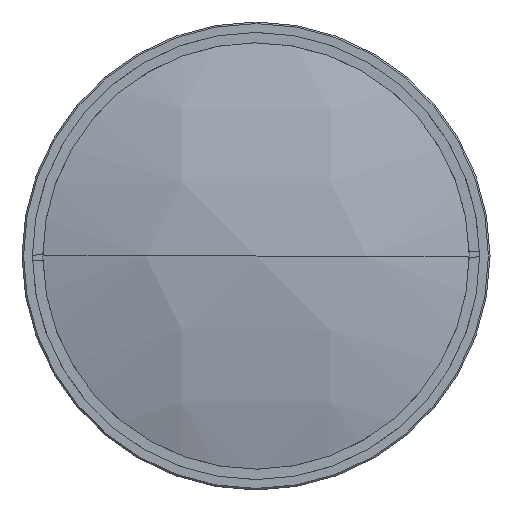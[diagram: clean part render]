
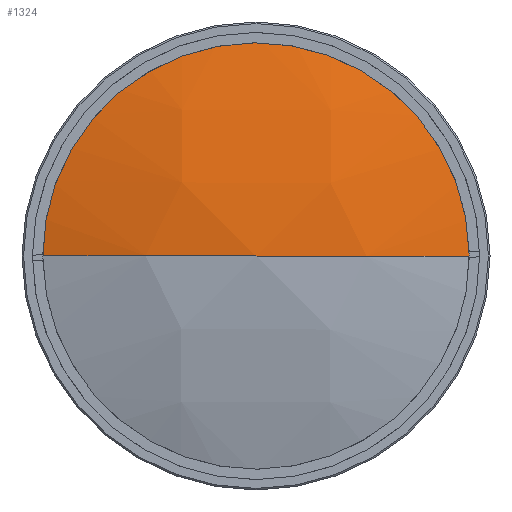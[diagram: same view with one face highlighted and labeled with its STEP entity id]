
A CAD part, left-side view. The second image highlights one B-rep face of the part: STEP entity #1324.
In plain terms, the highlighted free-form (B-spline) face has degree [3, 3] with [4, 4] control points.
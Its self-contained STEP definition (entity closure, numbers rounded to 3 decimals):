
#492 = CARTESIAN_POINT ( 'NONE',  ( 42.959, -14.642, 4.452 ) ) ;
#592 = CARTESIAN_POINT ( 'NONE',  ( 27.166, -42.487, 8.871 ) ) ;
#915 = ORIENTED_EDGE ( 'NONE', *, *, #10816, .T. ) ;
#1324 = ADVANCED_FACE ( 'NONE', ( #8557 ), #4733, .T. ) ;
#1570 = VERTEX_POINT ( 'NONE', #6070 ) ;
#1662 = ORIENTED_EDGE ( 'NONE', *, *, #7584, .T. ) ;
#1735 = CARTESIAN_POINT ( 'NONE',  ( 29.053, -14.642, -0.046 ) ) ;
#2126 = CIRCLE ( 'NONE', #12462, 42. ) ;
#2174 = ORIENTED_EDGE ( 'NONE', *, *, #13943, .T. ) ;
#2623 = CARTESIAN_POINT ( 'NONE',  ( 0., 0., 137.25 ) ) ;
#2947 = AXIS2_PLACEMENT_3D ( 'NONE', #2623, #12968, #14165 ) ;
#3574 = CARTESIAN_POINT ( 'NONE',  ( 42., 0., 6.584 ) ) ;
#3749 = DIRECTION ( 'NONE',  ( 0., 0., -1. ) ) ;
#3891 = CARTESIAN_POINT ( 'NONE',  ( 29.053, 14.642, -0.046 ) ) ;
#3980 = EDGE_LOOP ( 'NONE', ( #2174, #915, #1662 ) ) ;
#4014 = AXIS2_PLACEMENT_3D ( 'NONE', #13677, #5753, #12579 ) ;
#4733 =( BOUNDED_SURFACE ( )  B_SPLINE_SURFACE ( 3, 3, ( 
 ( #13187, #6217, #592, #6174 ),
 ( #8487, #7376, #1735, #492 ),
 ( #5019, #8624, #3891, #9776 ),
 ( #8533, #6260, #10920, #6358 ) ),
 .UNSPECIFIED., .F., .F., .F. ) 
 B_SPLINE_SURFACE_WITH_KNOTS ( ( 4, 4 ),
 ( 4, 4 ),
 ( 0., 1. ),
 ( 0., 1. ),
 .UNSPECIFIED. ) 
 GEOMETRIC_REPRESENTATION_ITEM ( )  RATIONAL_B_SPLINE_SURFACE ( (
 ( 1., 0.992, 0.992, 1.),
 ( 0.967, 0.959, 0.959, 0.967),
 ( 0.967, 0.959, 0.959, 0.967),
 ( 1., 0.992, 0.992, 1.) ) ) 
 REPRESENTATION_ITEM ( '' )  SURFACE ( )  );
#5019 = CARTESIAN_POINT ( 'NONE',  ( 0., 14.642, -2.323 ) ) ;
#5623 = CIRCLE ( 'NONE', #2947, 137.25 ) ;
#5753 = DIRECTION ( 'NONE',  ( 0., 0., -1. ) ) ;
#5788 = VERTEX_POINT ( 'NONE', #7710 ) ;
#6070 = CARTESIAN_POINT ( 'NONE',  ( 0., -42., 6.584 ) ) ;
#6174 = CARTESIAN_POINT ( 'NONE',  ( 40.169, -42.487, 13.077 ) ) ;
#6217 = CARTESIAN_POINT ( 'NONE',  ( 13.666, -42.487, 6.742 ) ) ;
#6260 = CARTESIAN_POINT ( 'NONE',  ( 13.666, 42.487, 6.742 ) ) ;
#6358 = CARTESIAN_POINT ( 'NONE',  ( 40.169, 42.487, 13.077 ) ) ;
#7376 = CARTESIAN_POINT ( 'NONE',  ( 14.616, -14.642, -2.323 ) ) ;
#7584 = EDGE_CURVE ( 'NONE', #5788, #11487, #2126, .T. ) ;
#7710 = CARTESIAN_POINT ( 'NONE',  ( 0., 42., 6.584 ) ) ;
#8299 = CARTESIAN_POINT ( 'NONE',  ( 0., 0., 6.584 ) ) ;
#8487 = CARTESIAN_POINT ( 'NONE',  ( 0., -14.642, -2.323 ) ) ;
#8533 = CARTESIAN_POINT ( 'NONE',  ( 0., 42.487, 6.742 ) ) ;
#8557 = FACE_OUTER_BOUND ( 'NONE', #3980, .T. ) ;
#8624 = CARTESIAN_POINT ( 'NONE',  ( 14.616, 14.642, -2.323 ) ) ;
#9776 = CARTESIAN_POINT ( 'NONE',  ( 42.959, 14.642, 4.452 ) ) ;
#10816 = EDGE_CURVE ( 'NONE', #1570, #5788, #5623, .T. ) ;
#10920 = CARTESIAN_POINT ( 'NONE',  ( 27.166, 42.487, 8.871 ) ) ;
#11487 = VERTEX_POINT ( 'NONE', #3574 ) ;
#12008 = CIRCLE ( 'NONE', #4014, 42. ) ;
#12462 = AXIS2_PLACEMENT_3D ( 'NONE', #8299, #3749, #12998 ) ;
#12579 = DIRECTION ( 'NONE',  ( 1., 0., 0. ) ) ;
#12968 = DIRECTION ( 'NONE',  ( 1., 0., 0. ) ) ;
#12998 = DIRECTION ( 'NONE',  ( 1., 0., 0. ) ) ;
#13187 = CARTESIAN_POINT ( 'NONE',  ( 0., -42.487, 6.742 ) ) ;
#13677 = CARTESIAN_POINT ( 'NONE',  ( 0., 0., 6.584 ) ) ;
#13943 = EDGE_CURVE ( 'NONE', #11487, #1570, #12008, .T. ) ;
#14165 = DIRECTION ( 'NONE',  ( 0., -1., 0. ) ) ;
